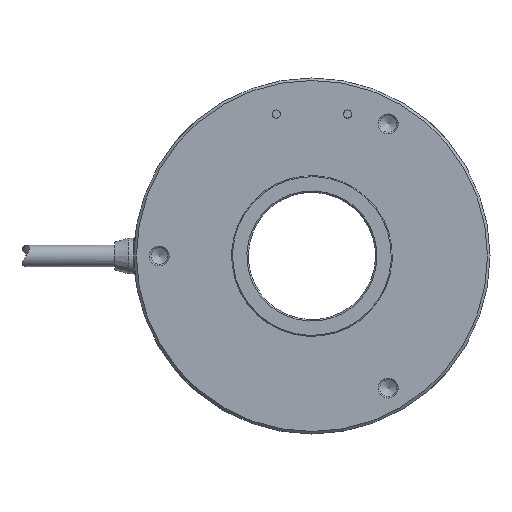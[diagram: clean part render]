
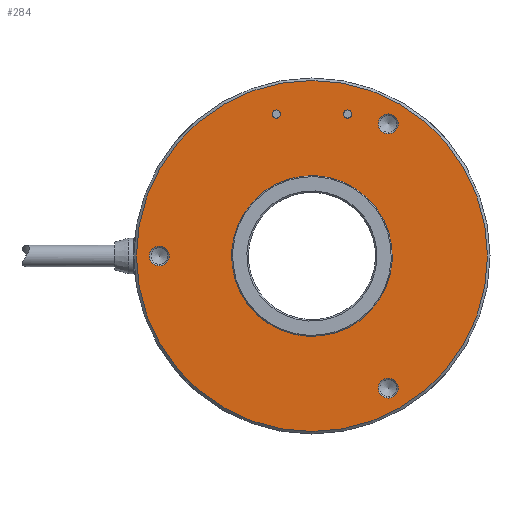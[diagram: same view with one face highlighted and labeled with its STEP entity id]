
A CAD part, left-side view. The second image highlights one B-rep face of the part: STEP entity #284.
In plain terms, the highlighted planar face has unit normal (-1, 0, 0).
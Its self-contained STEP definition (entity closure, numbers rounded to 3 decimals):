
#284=ADVANCED_FACE('',(#672,#673,#674,#675,#676,#677,#678),#679,.F.);
#672=FACE_BOUND('',#1265,.T.);
#673=FACE_BOUND('',#1266,.T.);
#674=FACE_BOUND('',#1267,.T.);
#675=FACE_BOUND('',#1268,.T.);
#676=FACE_BOUND('',#1269,.T.);
#677=FACE_BOUND('',#1270,.T.);
#678=FACE_OUTER_BOUND('',#1271,.T.);
#679=PLANE('',#1272);
#1265=EDGE_LOOP('',(#1919));
#1266=EDGE_LOOP('',(#1920));
#1267=EDGE_LOOP('',(#1921));
#1268=EDGE_LOOP('',(#1922));
#1269=EDGE_LOOP('',(#1923));
#1270=EDGE_LOOP('',(#1924));
#1271=EDGE_LOOP('',(#1925));
#1272=AXIS2_PLACEMENT_3D('',#1926,#1927,#1928);
#1919=ORIENTED_EDGE('',*,*,#3191,.T.);
#1920=ORIENTED_EDGE('',*,*,#3189,.T.);
#1921=ORIENTED_EDGE('',*,*,#3192,.T.);
#1922=ORIENTED_EDGE('',*,*,#3193,.T.);
#1923=ORIENTED_EDGE('',*,*,#3194,.T.);
#1924=ORIENTED_EDGE('',*,*,#3195,.T.);
#1925=ORIENTED_EDGE('',*,*,#3196,.T.);
#1926=CARTESIAN_POINT('',(0.,16.525,0.0));
#1927=DIRECTION('',(1.0,0.0,0.0));
#1928=DIRECTION('',(0.0,0.0,-1.0));
#3189=EDGE_CURVE('',#3728,#3728,#3729,.T.);
#3191=EDGE_CURVE('',#3731,#3731,#3732,.F.);
#3192=EDGE_CURVE('',#3733,#3733,#3734,.T.);
#3193=EDGE_CURVE('',#3735,#3735,#3736,.T.);
#3194=EDGE_CURVE('',#3737,#3737,#3738,.T.);
#3195=EDGE_CURVE('',#3739,#3739,#3740,.T.);
#3196=EDGE_CURVE('',#3741,#3741,#3742,.F.);
#3728=VERTEX_POINT('',#4747);
#3729=CIRCLE('',#4748,1.95);
#3731=VERTEX_POINT('',#4750);
#3732=CIRCLE('',#4751,15.6);
#3733=VERTEX_POINT('',#4752);
#3734=CIRCLE('',#4753,1.95);
#3735=VERTEX_POINT('',#4754);
#3736=CIRCLE('',#4755,1.95);
#3737=VERTEX_POINT('',#4756);
#3738=CIRCLE('',#4757,0.8);
#3739=VERTEX_POINT('',#4758);
#3740=CIRCLE('',#4759,0.8);
#3741=VERTEX_POINT('',#4760);
#3742=CIRCLE('',#4761,34.5);
#4747=CARTESIAN_POINT('',(0.,-16.95,25.981));
#4748=AXIS2_PLACEMENT_3D('',#5748,#5749,#5750);
#4750=CARTESIAN_POINT('',(0.,-8.532,13.06));
#4751=AXIS2_PLACEMENT_3D('',#5751,#5752,#5753);
#4752=CARTESIAN_POINT('',(0.,28.05,0.));
#4753=AXIS2_PLACEMENT_3D('',#5754,#5755,#5756);
#4754=CARTESIAN_POINT('',(0.,-16.95,-25.981));
#4755=AXIS2_PLACEMENT_3D('',#5757,#5758,#5759);
#4756=CARTESIAN_POINT('',(0.,-7.0,27.1));
#4757=AXIS2_PLACEMENT_3D('',#5760,#5761,#5762);
#4758=CARTESIAN_POINT('',(0.,7.0,27.1));
#4759=AXIS2_PLACEMENT_3D('',#5763,#5764,#5765);
#4760=CARTESIAN_POINT('',(0.,0.,-34.5));
#4761=AXIS2_PLACEMENT_3D('',#5766,#5767,#5768);
#5748=CARTESIAN_POINT('',(0.,-15.0,25.981));
#5749=DIRECTION('',(1.0,0.0,0.0));
#5750=DIRECTION('',(0.0,-1.0,0.0));
#5751=CARTESIAN_POINT('',(0.,0.,0.));
#5752=DIRECTION('',(-1.0,0.,0.));
#5753=DIRECTION('',(0.,-0.547,0.837));
#5754=CARTESIAN_POINT('',(0.,30.0,0.));
#5755=DIRECTION('',(1.0,0.0,0.0));
#5756=DIRECTION('',(0.0,-1.0,0.0));
#5757=CARTESIAN_POINT('',(0.,-15.0,-25.981));
#5758=DIRECTION('',(1.0,0.0,0.0));
#5759=DIRECTION('',(0.0,-1.0,0.0));
#5760=CARTESIAN_POINT('',(0.,-7.0,27.9));
#5761=DIRECTION('',(1.0,0.0,0.0));
#5762=DIRECTION('',(0.0,0.0,-1.0));
#5763=CARTESIAN_POINT('',(0.,7.0,27.9));
#5764=DIRECTION('',(1.0,0.0,0.0));
#5765=DIRECTION('',(0.0,0.0,-1.0));
#5766=CARTESIAN_POINT('',(0.,0.0,0.0));
#5767=DIRECTION('',(1.0,0.0,0.0));
#5768=DIRECTION('',(0.0,0.0,-1.0));
